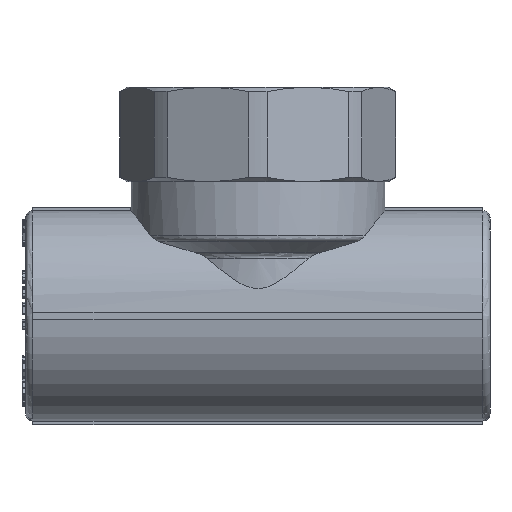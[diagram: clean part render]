
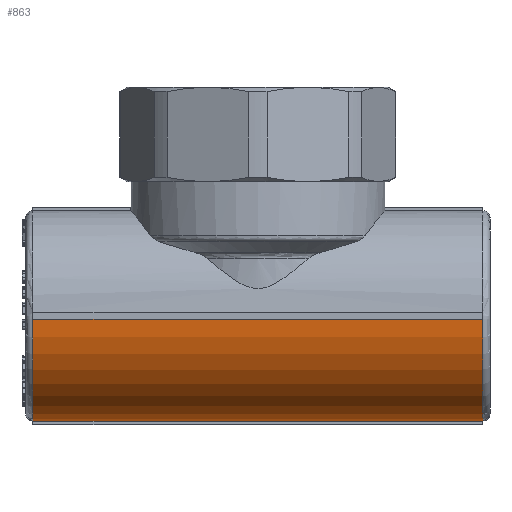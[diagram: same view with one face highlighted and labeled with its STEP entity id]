
A CAD part, left-side view. The second image highlights one B-rep face of the part: STEP entity #863.
In plain terms, the highlighted cylindrical face has radius 14.5 mm (diameter 29 mm), a partial arc.
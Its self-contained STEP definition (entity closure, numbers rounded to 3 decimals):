
#863=ADVANCED_FACE('',(#5276),#5278,.T.);
#5276=FACE_BOUND('',#5277,.T.);
#5277=EDGE_LOOP('',(#11555,#11556,#11557,#11558));
#5278=CYLINDRICAL_SURFACE('',#5279,14.5);
#5279=AXIS2_PLACEMENT_3D('',#5280,#5281,#5282);
#5280=CARTESIAN_POINT('',(0.,-32.,0.));
#5281=DIRECTION('',(0.,1.,0.));
#5282=DIRECTION('',(-1.,0.,0.));
#11555=ORIENTED_EDGE('',*,*,#15250,.F.);
#11556=ORIENTED_EDGE('',*,*,#14247,.T.);
#11557=ORIENTED_EDGE('',*,*,#15251,.F.);
#11558=ORIENTED_EDGE('',*,*,#14254,.F.);
#14247=EDGE_CURVE('',#17372,#17370,#17373,.T.);
#14254=EDGE_CURVE('',#17383,#17385,#17386,.T.);
#15250=EDGE_CURVE('',#17372,#17383,#18892,.T.);
#15251=EDGE_CURVE('',#17385,#17370,#18893,.F.);
#17370=VERTEX_POINT('',#25470);
#17372=VERTEX_POINT('',#25475);
#17373=CIRCLE('',#25476,14.5);
#17383=VERTEX_POINT('',#25504);
#17385=VERTEX_POINT('',#25509);
#17386=CIRCLE('',#25510,14.5);
#18892=LINE('',#29601,#29602);
#18893=LINE('',#29604,#29605);
#25470=CARTESIAN_POINT('',(-14.491,-31.,-0.5));
#25475=CARTESIAN_POINT('',(-0.5,-31.,-14.491));
#25476=AXIS2_PLACEMENT_3D('',#25477,#25478,#25479);
#25477=CARTESIAN_POINT('',(0.,-31.,0.));
#25478=DIRECTION('',(0.,1.,0.));
#25479=DIRECTION('',(-0.034,0.,-0.999));
#25504=CARTESIAN_POINT('',(-0.5,31.,-14.491));
#25509=CARTESIAN_POINT('',(-14.491,31.,-0.5));
#25510=AXIS2_PLACEMENT_3D('',#25511,#25512,#25513);
#25511=CARTESIAN_POINT('',(0.,31.,0.));
#25512=DIRECTION('',(0.,1.,0.));
#25513=DIRECTION('',(-0.034,0.,-0.999));
#29601=CARTESIAN_POINT('',(-0.5,-31.,-14.491));
#29602=VECTOR('',#29603,1.);
#29603=DIRECTION('',(0.,1.,0.));
#29604=CARTESIAN_POINT('',(-14.491,-31.,-0.5));
#29605=VECTOR('',#29606,1.);
#29606=DIRECTION('',(0.,1.,0.));
